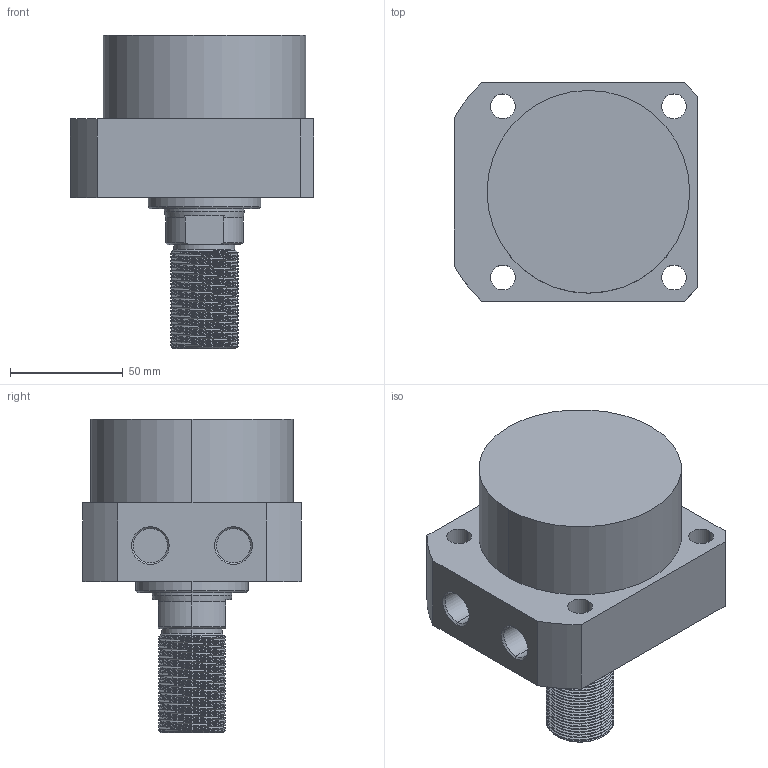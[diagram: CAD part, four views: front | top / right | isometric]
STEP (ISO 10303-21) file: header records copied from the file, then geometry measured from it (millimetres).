
FILE_DESCRIPTION (( 'STEP AP214' ), '1' );
FILE_NAME ('CLLR-090CT-015.STEP', '2020-01-09T06:06:07', ( 'Windows' ), ( 'Microsoft' ), 'SwSTEP 2.0', 'SolidWorks 2015', '' );
FILE_SCHEMA (( 'AUTOMOTIVE_DESIGN' ));
Length unit declared in the file: millimetre
Products named in the file (1): CLLR-090CT-015
Bounding box: 108 x 97 x 139 mm (x, y, z)
Volume: 627213.5 mm3; surface area: 60604.7 mm2
Topology: 1 solids, 1 shells, 122 faces, 325 edges, 213 vertices
Faces by surface type: cylinder 85, plane 20, cone 15, bspline 2
Entity records: 6971 total; most frequent: CARTESIAN_POINT 4185, ORIENTED_EDGE 650, DIRECTION 513, EDGE_CURVE 325, VERTEX_POINT 213, AXIS2_PLACEMENT_3D 196, EDGE_LOOP 138, FACE_OUTER_BOUND 122
